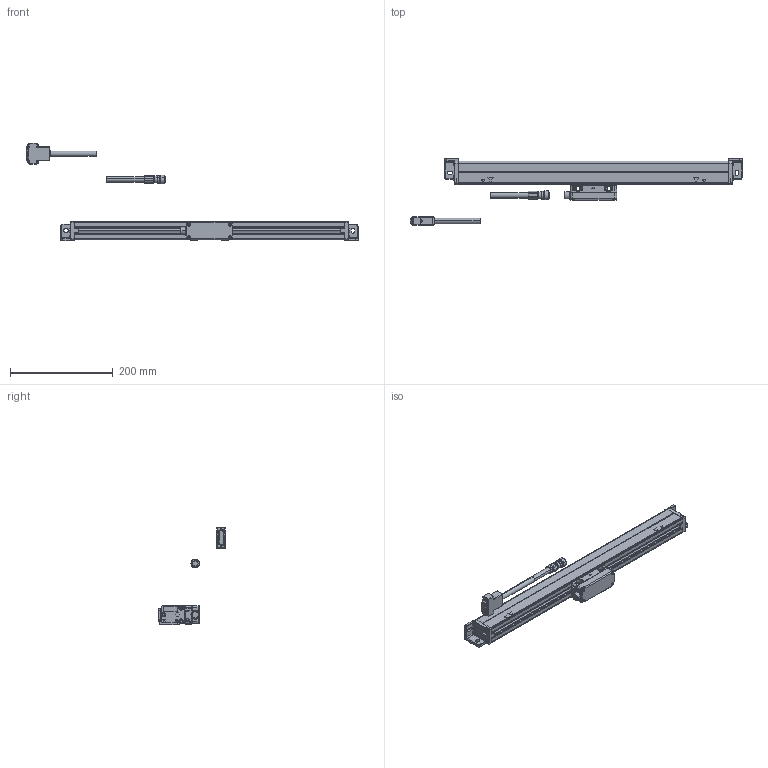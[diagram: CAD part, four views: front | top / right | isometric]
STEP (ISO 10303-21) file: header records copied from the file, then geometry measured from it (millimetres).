
FILE_DESCRIPTION(('Creo Elements/Direct Modeling STEP Export'),'2;1');
FILE_NAME('AT103_AT203-400.stp','2018-01-05T13:54:27',(''),(''),'Creo Elements/Direct Modeling STEP processor for AP214 (Solid Model)','Creo Elements/Direct Modeling 18.1B 29-Sep-2012 (C) Parametric Technology GmbH','');
FILE_SCHEMA(('AUTOMOTIVE_DESIGN { 1 0 10303 214 1 1 1 1 }'));
Length unit declared in the file: millimetre
Products named in the file (5): Cable; Cable.1; Scale_400; DetectorHead; AT103_203-400
Assembly tree (4 placements, depth 2):
  AT103_203-400
    DetectorHead
    Scale_400
    Cable.1
    Cable
Bounding box: 645.83 x 129 x 190.1 mm (x, y, z)
Volume: 956335.1 mm3; surface area: 145401.2 mm2
Topology: 4 solids, 8 shells, 1072 faces, 2655 edges, 1645 vertices
Faces by surface type: plane 603, cylinder 290, cone 80, torus 58, sphere 16, extrusion 16, bspline 5, revolution 4
Entity records: 33826 total; most frequent: CARTESIAN_POINT 6553, ORIENTED_EDGE 5276, DIRECTION 5000, EDGE_CURVE 2638, AXIS2_PLACEMENT_3D 1684, VERTEX_POINT 1645, VECTOR 1626, LINE 1620
